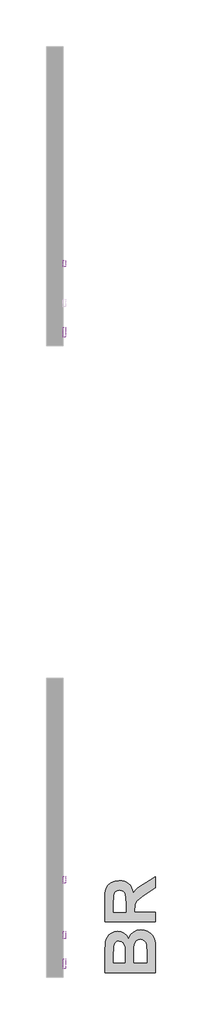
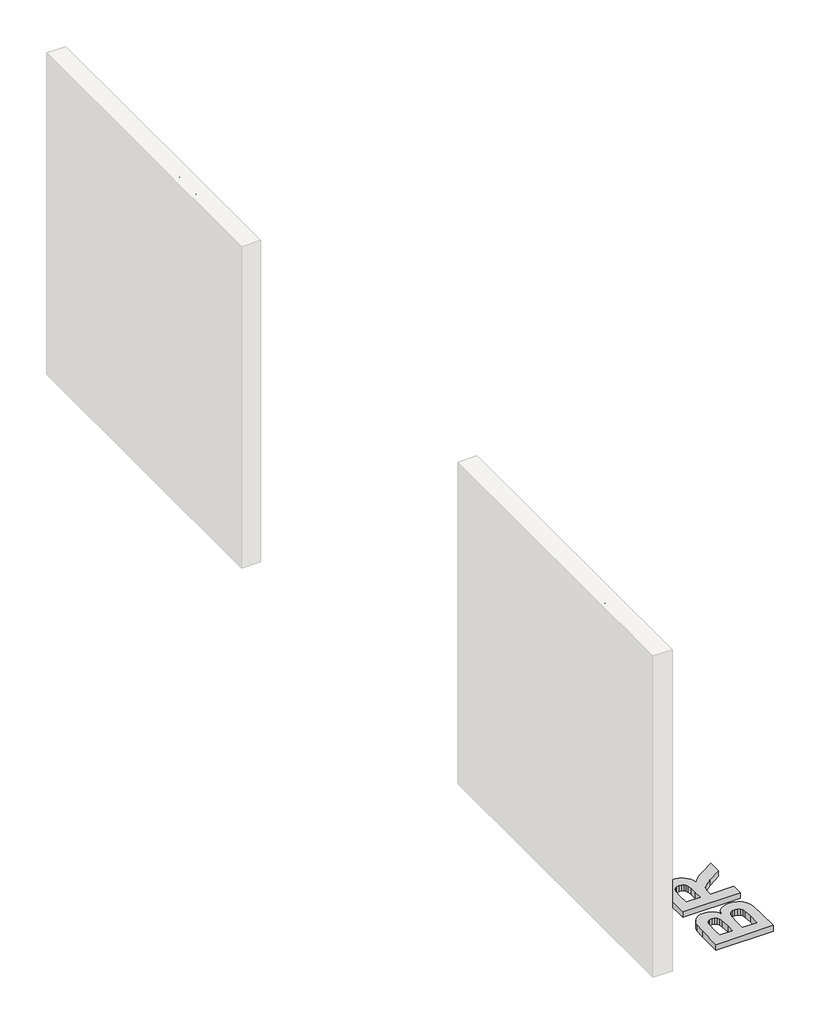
# One storey, part 4 of 21: 6 proxies.
"""IFC4 building model written with IfcOpenShell, lengths in millimetres."""

from ifc_helpers import new_model, si_unit, frame, origin, origin_with_axes, place, context, project, spatial, polyline, outline, extrude, element, save

model = new_model("IFC4")

# Units and contexts
model_context = context("Model", 3, world=origin())
ifc_project = project(units=[si_unit("LENGTHUNIT", "METRE", prefix="MILLI")], contexts=[model_context])

# Site, building, storey
site = spatial("IfcSite", under=ifc_project)
building = spatial("IfcBuilding", under=site)
storey = spatial("IfcBuildingStorey", under=building, Name="PORTOBELLO - SHOWROOM", Elevation=0.0)

# Proxies
placement = place(None, origin())
element("IfcBuildingElementProxy", 1, Name="10mm Arial", ObjectType="10mm Arial", at=placement, inside=storey, context=model_context, shape_type="SweptSolid", body=[
    extrude(outline(polyline([(-7646.6519205, 2518.4745677), (-7606.552783, 2618.9308778), (-7595.8596797, 2618.9308778), (-7555.7850677, 2518.4745677), (-7569.0533449, 2518.4745677), (-7580.5312632, 2549.8671646), (-7621.9302504, 2549.8671646), (-7633.4081686, 2518.4745677), (-7646.6519205, 2518.4745677)]), holes=[polyline([(-7617.3194627, 2562.4242034), (-7585.1175254, 2562.4242034), (-7594.191948, 2587.121348), (-7601.2307568, 2606.373839), (-7607.4847507, 2589.279589), (-7617.3194627, 2562.4242034)])]), frame((25885.0186832, 0.0, 0.0), z_axis=(1.0, 0.0, 0.0), x_axis=(0.0, 1.0, 0.0)), (0.0, 0.0, 1.0), 20.0),
    extrude(outline(polyline([(-7543.9392674, 2518.4745677), (-7543.9392674, 2592.2471704), (-7532.9518585, 2592.2471704), (-7532.9518585, 2581.3333379), (-7525.1527602, 2591.3887791), (-7517.304611, 2593.8168003), (-7504.6985213, 2589.9417766), (-7508.892376, 2578.6845875), (-7517.7215439, 2581.2597615), (-7524.8216664, 2578.7826894), (-7529.3466149, 2571.9155588), (-7531.3822286, 2557.24933), (-7531.3822286, 2518.4745677), (-7543.9392674, 2518.4745677)])), frame((25885.0186832, 0.0, 0.0), z_axis=(1.0, 0.0, 0.0), x_axis=(0.0, 1.0, 0.0)), (0.0, 0.0, 1.0), 20.0),
    extrude(outline(polyline([(25905.0186832, -7484.2933333), (25905.0186832, -7496.850372), (25885.0186832, -7496.850372), (25885.0186832, -7484.2933333), (25905.0186832, -7484.2933333)])), frame((0.0, 0.0, 2518.4745677), z_axis=(0.0, 0.0, 1.0), x_axis=(1.0, 0.0, 0.0)), (0.0, 0.0, 1.0), 100.4563101),
    extrude(outline(polyline([(-7413.807143, 2540.4493855), (-7401.4953589, 2538.8797557), (-7405.9314026, 2529.602998), (-7413.0100653, 2522.6684224), (-7422.5719315, 2518.345809), (-7434.4575856, 2516.9049378), (-7449.1912596, 2519.391207), (-7460.5281564, 2526.8500144), (-7467.7570376, 2538.7969822), (-7470.1666646, 2554.7477324), (-7467.7325121, 2571.2349771), (-7460.4300545, 2583.5651553), (-7449.2464419, 2591.253889), (-7435.1688242, 2593.8168003), (-7421.5295992, 2591.2600204), (-7410.6310951, 2583.5896808), (-7403.4849873, 2571.2840281), (-7401.1029514, 2554.8213088), (-7401.1765278, 2551.4367944), (-7457.6096259, 2551.4367944), (-7455.4360564, 2542.0374095), (-7450.386876, 2535.1273593), (-7443.0997468, 2530.8783223), (-7434.212331, 2529.4619766), (-7421.9005469, 2532.0862015), (-7413.807143, 2540.4493855)]), holes=[polyline([(-7457.6096259, 2563.9938332), (-7413.6599902, 2563.9938332), (-7418.6877108, 2575.3736496), (-7426.0085625, 2579.7882335), (-7435.2178751, 2581.2597615), (-7450.6811816, 2576.5631347), (-7455.546421, 2571.0724959), (-7457.6096259, 2563.9938332)])]), frame((25885.0186832, 0.0, 0.0), z_axis=(1.0, 0.0, 0.0), x_axis=(0.0, 1.0, 0.0)), (0.0, 0.0, 1.0), 20.0),
    extrude(outline(polyline([(-7393.2548022, 2540.4493855), (-7380.6977634, 2542.0190154), (-7374.8852279, 2532.6993381), (-7361.5678997, 2529.4619766), (-7348.7656062, 2532.429558), (-7344.596277, 2539.3947905), (-7348.7901317, 2545.0356477), (-7361.7150525, 2548.6163658), (-7380.624187, 2554.7599951), (-7388.8770064, 2561.933694), (-7391.6851723, 2572.0627116), (-7389.4288294, 2581.419177), (-7383.2729374, 2588.5683505), (-7375.2898981, 2592.2839586), (-7364.4864302, 2593.8168003), (-7349.2070646, 2591.3519909), (-7339.49498, 2584.6810641), (-7335.1784979, 2573.4116123), (-7347.7355366, 2571.8419824), (-7352.4566889, 2578.7704267), (-7363.5054115, 2581.2597615), (-7375.52289, 2578.8807913), (-7379.1281336, 2573.3380359), (-7377.6320801, 2569.6837414), (-7372.9477161, 2566.9123637), (-7362.1319854, 2564.2390879), (-7343.7010974, 2558.3284505), (-7335.1417097, 2551.6329982), (-7332.0392382, 2540.7191656), (-7335.6812699, 2528.7016871), (-7346.1904323, 2519.9828838), (-7361.7395779, 2516.9049378), (-7374.4008499, 2518.3887285), (-7383.6408194, 2522.8401007), (-7389.8089742, 2530.2100033), (-7393.2548022, 2540.4493855)])), frame((25885.0186832, 0.0, 0.0), z_axis=(1.0, 0.0, 0.0), x_axis=(0.0, 1.0, 0.0)), (0.0, 0.0, 1.0), 20.0),
    extrude(outline(polyline([(-7277.1021936, 2518.4745677), (-7277.1021936, 2618.9308778), (-7238.7688897, 2618.9308778), (-7219.9946452, 2615.9755591), (-7208.9091344, 2606.8888738), (-7204.8992207, 2594.0375295), (-7208.2714723, 2582.3020938), (-7218.4618035, 2573.4116123), (-7206.0887058, 2564.0428841), (-7201.759961, 2548.4201621), (-7204.7152797, 2534.9188928), (-7212.0361314, 2525.30491), (-7222.9622266, 2520.203613), (-7239.0631953, 2518.4745677), (-7277.1021936, 2518.4745677)]), holes=[polyline([(-7264.5451548, 2578.1205018), (-7241.6138438, 2578.1205018), (-7228.2229391, 2579.1996223), (-7220.1663235, 2583.8471982), (-7217.4562594, 2592.0264412), (-7219.9823825, 2600.217947), (-7227.217395, 2605.0617266), (-7243.3551519, 2606.373839), (-7264.5451548, 2606.373839), (-7264.5451548, 2578.1205018)]), polyline([(-7264.5451548, 2531.0316064), (-7238.7934151, 2531.0316064), (-7229.4737379, 2531.5221158), (-7221.5888005, 2534.2567053), (-7216.3648762, 2539.8362488), (-7214.3169997, 2548.2975347), (-7216.7204954, 2558.0586703), (-7224.507331, 2563.8834686), (-7240.0196885, 2565.563463), (-7264.5451548, 2565.563463), (-7264.5451548, 2531.0316064)])]), frame((25885.0186832, 0.0, 0.0), z_axis=(1.0, 0.0, 0.0), x_axis=(0.0, 1.0, 0.0)), (0.0, 0.0, 1.0), 20.0),
    extrude(outline(polyline([(-7134.4130304, 2540.4493855), (-7122.1012463, 2538.8797557), (-7126.53729, 2529.602998), (-7133.6159527, 2522.6684224), (-7143.1778189, 2518.345809), (-7155.063473, 2516.9049378), (-7169.7971469, 2519.391207), (-7181.1340438, 2526.8500144), (-7188.362925, 2538.7969822), (-7190.772552, 2554.7477324), (-7188.3383995, 2571.2349771), (-7181.0359419, 2583.5651553), (-7169.8523292, 2591.253889), (-7155.7747116, 2593.8168003), (-7142.1354866, 2591.2600204), (-7131.2369825, 2583.5896808), (-7124.0908747, 2571.2840281), (-7121.7088388, 2554.8213088), (-7121.7824152, 2551.4367944), (-7178.2155133, 2551.4367944), (-7176.0419438, 2542.0374095), (-7170.9927634, 2535.1273593), (-7163.7056342, 2530.8783223), (-7154.8182184, 2529.4619766), (-7142.5064343, 2532.0862015), (-7134.4130304, 2540.4493855)]), holes=[polyline([(-7178.2155133, 2563.9938332), (-7134.2658776, 2563.9938332), (-7139.2935982, 2575.3736496), (-7146.6144499, 2579.7882335), (-7155.8237625, 2581.2597615), (-7171.287069, 2576.5631347), (-7176.1523084, 2571.0724959), (-7178.2155133, 2563.9938332)])]), frame((25885.0186832, 0.0, 0.0), z_axis=(1.0, 0.0, 0.0), x_axis=(0.0, 1.0, 0.0)), (0.0, 0.0, 1.0), 20.0),
    extrude(outline(polyline([(25905.0186832, -7096.5947613), (25905.0186832, -7109.1518), (25885.0186832, -7109.1518), (25885.0186832, -7096.5947613), (25905.0186832, -7096.5947613)])), frame((0.0, 0.0, 2606.373839), z_axis=(0.0, 0.0, 1.0), x_axis=(1.0, 0.0, 0.0)), (0.0, 0.0, 1.0), 12.5570388),
    extrude(outline(polyline([(25905.0186832, -7096.5947613), (25905.0186832, -7109.1518), (25885.0186832, -7109.1518), (25885.0186832, -7096.5947613), (25905.0186832, -7096.5947613)])), frame((0.0, 0.0, 2518.4745677), z_axis=(0.0, 0.0, 1.0), x_axis=(1.0, 0.0, 0.0)), (0.0, 0.0, 1.0), 73.7726028),
    extrude(outline(polyline([(-7080.8984628, 2512.1960483), (-7068.341424, 2510.6264184), (-7064.2701966, 2504.0045425), (-7052.0810399, 2501.2086394), (-7039.2296955, 2504.3724245), (-7033.0983289, 2513.2506433), (-7032.2399376, 2527.8923467), (-7041.0813682, 2520.8290124), (-7051.8603107, 2518.4745677), (-7064.8066912, 2521.2152885), (-7074.4605279, 2529.4374511), (-7080.4662015, 2541.4917178), (-7082.4680927, 2555.728751), (-7078.8751118, 2575.1897086), (-7068.4763141, 2588.9607579), (-7052.4734473, 2593.8168003), (-7041.2714406, 2591.069948), (-7032.2399376, 2582.8293914), (-7032.2399376, 2592.2471704), (-7019.6828988, 2592.2471704), (-7019.6828988, 2528.5545343), (-7023.1164641, 2504.1639581), (-7033.9935084, 2492.8209299), (-7052.3262945, 2488.6516006), (-7064.0096136, 2490.1200629), (-7073.2097291, 2494.5254498), (-7079.1111695, 2501.880024), (-7080.8984628, 2512.1960483)]), holes=[polyline([(-7069.9110539, 2556.5871424), (-7068.5713503, 2545.0693702), (-7064.5522395, 2537.1507103), (-7058.5097777, 2532.5613824), (-7051.1000212, 2531.0316064), (-7043.745447, 2532.5521853), (-7037.6723284, 2537.1139221), (-7033.5980353, 2544.9314145), (-7032.2399376, 2556.2192604), (-7033.6378892, 2567.1055017), (-7037.8317439, 2574.9444539), (-7043.9937673, 2579.6809346), (-7051.2962249, 2581.2597615), (-7058.4668582, 2579.7054601), (-7064.4786631, 2575.0425558), (-7068.5529562, 2567.3200996), (-7069.9110539, 2556.5871424)])]), frame((25885.0186832, 0.0, 0.0), z_axis=(1.0, 0.0, 0.0), x_axis=(0.0, 1.0, 0.0)), (0.0, 0.0, 1.0), 20.0),
    extrude(outline(polyline([(-6949.1967085, 2540.4493855), (-6936.8849244, 2538.8797557), (-6941.3209682, 2529.602998), (-6948.3996309, 2522.6684224), (-6957.9614971, 2518.345809), (-6969.8471512, 2516.9049378), (-6984.5808251, 2519.391207), (-6995.9177219, 2526.8500144), (-7003.1466031, 2538.7969822), (-7005.5562302, 2554.7477324), (-7003.1220777, 2571.2349771), (-6995.8196201, 2583.5651553), (-6984.6360074, 2591.253889), (-6970.5583897, 2593.8168003), (-6956.9191648, 2591.2600204), (-6946.0206606, 2583.5896808), (-6938.8745529, 2571.2840281), (-6936.492517, 2554.8213088), (-6936.5660934, 2551.4367944), (-6992.9991914, 2551.4367944), (-6990.825622, 2542.0374095), (-6985.7764416, 2535.1273593), (-6978.4893124, 2530.8783223), (-6969.6018965, 2529.4619766), (-6957.2901124, 2532.0862015), (-6949.1967085, 2540.4493855)]), holes=[polyline([(-6992.9991914, 2563.9938332), (-6949.0495557, 2563.9938332), (-6954.0772763, 2575.3736496), (-6961.398128, 2579.7882335), (-6970.6074407, 2581.2597615), (-6986.0707472, 2576.5631347), (-6990.9359866, 2571.0724959), (-6992.9991914, 2563.9938332)])]), frame((25885.0186832, 0.0, 0.0), z_axis=(1.0, 0.0, 0.0), x_axis=(0.0, 1.0, 0.0)), (0.0, 0.0, 1.0), 20.0),
])
element("IfcBuildingElementProxy", 2, Name="10mm Arial", ObjectType="10mm Arial", at=placement, inside=storey, context=model_context, shape_type="SweptSolid", body=[
    extrude(outline(polyline([(-7592.5977926, 2383.4745677), (-7605.1548314, 2383.4745677), (-7605.1548314, 2461.7598562), (-7617.0496826, 2453.2863076), (-7630.2689089, 2446.9464746), (-7630.2689089, 2458.8168003), (-7611.8625465, 2470.5644987), (-7600.6911965, 2483.9308778), (-7592.5977926, 2483.9308778), (-7592.5977926, 2383.4745677)])), frame((25885.0186832, 0.0, 0.0), z_axis=(1.0, 0.0, 0.0), x_axis=(0.0, 1.0, 0.0)), (0.0, 0.0, 1.0), 20.0),
    extrude(outline(polyline([(-7562.7748256, 2410.158275), (-7550.2177868, 2411.7279049), (-7543.8902165, 2398.7907214), (-7530.769092, 2394.4619766), (-7521.7682458, 2395.9672271), (-7515.0237426, 2400.4829786), (-7510.8114937, 2407.4880649), (-7509.4074108, 2416.4613199), (-7514.6681233, 2431.3728034), (-7521.2746708, 2435.4746877), (-7530.5728883, 2436.8419824), (-7541.5970854, 2434.6592159), (-7548.6481569, 2428.9938332), (-7561.2051957, 2430.563463), (-7550.2177868, 2482.361248), (-7501.5592616, 2482.361248), (-7501.5592616, 2469.8042092), (-7540.0642437, 2469.8042092), (-7545.4598463, 2442.1394832), (-7536.489657, 2447.5841367), (-7527.090272, 2449.3990212), (-7515.3548364, 2447.1488097), (-7505.6059635, 2440.3981751), (-7499.0392699, 2430.1097419), (-7496.850372, 2417.2461348), (-7498.8185407, 2404.6890961), (-7504.7230467, 2393.9469418), (-7516.0292867, 2384.9154388), (-7530.8181429, 2381.9049378), (-7543.1513868, 2383.839384), (-7552.9769018, 2389.6427224), (-7559.712208, 2398.6405029), (-7562.7748256, 2410.158275)])), frame((25885.0186832, 0.0, 0.0), z_axis=(1.0, 0.0, 0.0), x_axis=(0.0, 1.0, 0.0)), (0.0, 0.0, 1.0), 20.0),
    extrude(outline(polyline([(-7479.5844437, 2383.4745677), (-7479.5844437, 2396.0316064), (-7467.027405, 2396.0316064), (-7467.027405, 2383.4745677), (-7469.2837479, 2370.635486), (-7476.445184, 2363.0693797), (-7479.5844437, 2367.7782692), (-7474.973656, 2373.1983973), (-7473.3304498, 2383.4745677), (-7479.5844437, 2383.4745677)])), frame((25885.0186832, 0.0, 0.0), z_axis=(1.0, 0.0, 0.0), x_axis=(0.0, 1.0, 0.0)), (0.0, 0.0, 1.0), 20.0),
    extrude(outline(polyline([(-7446.622217, 2410.158275), (-7434.0651782, 2411.7279049), (-7427.7376079, 2398.7907214), (-7414.6164834, 2394.4619766), (-7405.6156372, 2395.9672271), (-7398.871134, 2400.4829786), (-7394.6588851, 2407.4880649), (-7393.2548022, 2416.4613199), (-7398.5155147, 2431.3728034), (-7405.1220622, 2435.4746877), (-7414.4202796, 2436.8419824), (-7425.4444768, 2434.6592159), (-7432.4955483, 2428.9938332), (-7445.0525871, 2430.563463), (-7434.0651782, 2482.361248), (-7385.406653, 2482.361248), (-7385.406653, 2469.8042092), (-7423.9116351, 2469.8042092), (-7429.3072377, 2442.1394832), (-7420.3370484, 2447.5841367), (-7410.9376634, 2449.3990212), (-7399.2022278, 2447.1488097), (-7389.4533549, 2440.3981751), (-7382.8866613, 2430.1097419), (-7380.6977634, 2417.2461348), (-7382.6659321, 2404.6890961), (-7388.5704381, 2393.9469418), (-7399.8766781, 2384.9154388), (-7414.6655343, 2381.9049378), (-7426.9987782, 2383.839384), (-7436.8242931, 2389.6427224), (-7443.5595993, 2398.6405029), (-7446.622217, 2410.158275)])), frame((25885.0186832, 0.0, 0.0), z_axis=(1.0, 0.0, 0.0), x_axis=(0.0, 1.0, 0.0)), (0.0, 0.0, 1.0), 20.0),
    extrude(outline(polyline([(-7374.419244, 2383.4745677), (-7347.5883839, 2420.5815982), (-7372.8496142, 2457.2471704), (-7357.7909779, 2457.2471704), (-7345.6018211, 2439.5643092), (-7339.8873874, 2431.2501761), (-7334.9332432, 2438.0682557), (-7321.0518293, 2457.2471704), (-7305.944142, 2457.2471704), (-7332.4806966, 2420.5570728), (-7306.9251607, 2383.4745677), (-7322.0083225, 2383.4745677), (-7337.4103153, 2405.792742), (-7340.2062185, 2409.8884949), (-7359.3115568, 2383.4745677), (-7374.419244, 2383.4745677)])), frame((25885.0186832, 0.0, 0.0), z_axis=(1.0, 0.0, 0.0), x_axis=(0.0, 1.0, 0.0)), (0.0, 0.0, 1.0), 20.0),
    extrude(outline(polyline([(-7251.988116, 2383.4745677), (-7264.5451548, 2383.4745677), (-7264.5451548, 2461.7598562), (-7276.440006, 2453.2863076), (-7289.6592323, 2446.9464746), (-7289.6592323, 2458.8168003), (-7271.2528699, 2470.5644987), (-7260.0815199, 2483.9308778), (-7251.988116, 2483.9308778), (-7251.988116, 2383.4745677)])), frame((25885.0186832, 0.0, 0.0), z_axis=(1.0, 0.0, 0.0), x_axis=(0.0, 1.0, 0.0)), (0.0, 0.0, 1.0), 20.0),
    extrude(outline(polyline([(-7222.165149, 2410.158275), (-7209.6081102, 2411.7279049), (-7203.2805399, 2398.7907214), (-7190.1594154, 2394.4619766), (-7181.1585692, 2395.9672271), (-7174.414066, 2400.4829786), (-7170.2018171, 2407.4880649), (-7168.7977342, 2416.4613199), (-7174.0584467, 2431.3728034), (-7180.6649942, 2435.4746877), (-7189.9632117, 2436.8419824), (-7200.9874088, 2434.6592159), (-7208.0384803, 2428.9938332), (-7220.5955191, 2430.563463), (-7209.6081102, 2482.361248), (-7160.949585, 2482.361248), (-7160.949585, 2469.8042092), (-7199.4545671, 2469.8042092), (-7204.8501697, 2442.1394832), (-7195.8799804, 2447.5841367), (-7186.4805954, 2449.3990212), (-7174.7451598, 2447.1488097), (-7164.9962869, 2440.3981751), (-7158.4295933, 2430.1097419), (-7156.2406954, 2417.2461348), (-7158.2088641, 2404.6890961), (-7164.1133701, 2393.9469418), (-7175.4196101, 2384.9154388), (-7190.2084663, 2381.9049378), (-7202.5417102, 2383.839384), (-7212.3672252, 2389.6427224), (-7219.1025314, 2398.6405029), (-7222.165149, 2410.158275)])), frame((25885.0186832, 0.0, 0.0), z_axis=(1.0, 0.0, 0.0), x_axis=(0.0, 1.0, 0.0)), (0.0, 0.0, 1.0), 20.0),
    extrude(outline(polyline([(-7138.9747671, 2383.4745677), (-7138.9747671, 2396.0316064), (-7126.4177284, 2396.0316064), (-7126.4177284, 2383.4745677), (-7128.6740713, 2370.635486), (-7135.8355074, 2363.0693797), (-7138.9747671, 2367.7782692), (-7134.3639794, 2373.1983973), (-7132.7207732, 2383.4745677), (-7138.9747671, 2383.4745677)])), frame((25885.0186832, 0.0, 0.0), z_axis=(1.0, 0.0, 0.0), x_axis=(0.0, 1.0, 0.0)), (0.0, 0.0, 1.0), 20.0),
    extrude(outline(polyline([(-7106.0125404, 2410.158275), (-7093.4555016, 2411.7279049), (-7087.1279313, 2398.7907214), (-7074.0068068, 2394.4619766), (-7065.0059606, 2395.9672271), (-7058.2614574, 2400.4829786), (-7054.0492085, 2407.4880649), (-7052.6451256, 2416.4613199), (-7057.9058381, 2431.3728034), (-7064.5123856, 2435.4746877), (-7073.810603, 2436.8419824), (-7084.8348002, 2434.6592159), (-7091.8858717, 2428.9938332), (-7104.4429105, 2430.563463), (-7093.4555016, 2482.361248), (-7044.7969764, 2482.361248), (-7044.7969764, 2469.8042092), (-7083.3019585, 2469.8042092), (-7088.6975611, 2442.1394832), (-7079.7273718, 2447.5841367), (-7070.3279868, 2449.3990212), (-7058.5925512, 2447.1488097), (-7048.8436783, 2440.3981751), (-7042.2769847, 2430.1097419), (-7040.0880868, 2417.2461348), (-7042.0562555, 2404.6890961), (-7047.9607615, 2393.9469418), (-7059.2670015, 2384.9154388), (-7074.0558577, 2381.9049378), (-7086.3891016, 2383.839384), (-7096.2146165, 2389.6427224), (-7102.9499227, 2398.6405029), (-7106.0125404, 2410.158275)])), frame((25885.0186832, 0.0, 0.0), z_axis=(1.0, 0.0, 0.0), x_axis=(0.0, 1.0, 0.0)), (0.0, 0.0, 1.0), 20.0),
])
element("IfcBuildingElementProxy", 3, Name="10mm Arial", ObjectType="10mm Arial", at=placement, inside=storey, context=model_context, shape_type="SweptSolid", body=[
    extrude(outline(polyline([(-1946.6519205, 2518.4745677), (-1906.552783, 2618.9308778), (-1895.8596797, 2618.9308778), (-1855.7850677, 2518.4745677), (-1869.0533449, 2518.4745677), (-1880.5312632, 2549.8671646), (-1921.9302504, 2549.8671646), (-1933.4081686, 2518.4745677), (-1946.6519205, 2518.4745677)]), holes=[polyline([(-1917.3194627, 2562.4242034), (-1885.1175254, 2562.4242034), (-1894.191948, 2587.121348), (-1901.2307568, 2606.373839), (-1907.4847507, 2589.279589), (-1917.3194627, 2562.4242034)])]), frame((25885.0186832, 0.0, 0.0), z_axis=(1.0, 0.0, 0.0), x_axis=(0.0, 1.0, 0.0)), (0.0, 0.0, 1.0), 20.0),
    extrude(outline(polyline([(-1843.9392674, 2518.4745677), (-1843.9392674, 2592.2471704), (-1832.9518585, 2592.2471704), (-1832.9518585, 2581.3333379), (-1825.1527602, 2591.3887791), (-1817.304611, 2593.8168003), (-1804.6985213, 2589.9417766), (-1808.892376, 2578.6845875), (-1817.7215439, 2581.2597615), (-1824.8216664, 2578.7826894), (-1829.3466149, 2571.9155588), (-1831.3822286, 2557.24933), (-1831.3822286, 2518.4745677), (-1843.9392674, 2518.4745677)])), frame((25885.0186832, 0.0, 0.0), z_axis=(1.0, 0.0, 0.0), x_axis=(0.0, 1.0, 0.0)), (0.0, 0.0, 1.0), 20.0),
    extrude(outline(polyline([(25905.0186832, -1784.2933333), (25905.0186832, -1796.850372), (25885.0186832, -1796.850372), (25885.0186832, -1784.2933333), (25905.0186832, -1784.2933333)])), frame((0.0, 0.0, 2518.4745677), z_axis=(0.0, 0.0, 1.0), x_axis=(1.0, 0.0, 0.0)), (0.0, 0.0, 1.0), 100.4563101),
    extrude(outline(polyline([(-1713.807143, 2540.4493855), (-1701.4953589, 2538.8797557), (-1705.9314026, 2529.602998), (-1713.0100653, 2522.6684224), (-1722.5719315, 2518.345809), (-1734.4575856, 2516.9049378), (-1749.1912596, 2519.391207), (-1760.5281564, 2526.8500144), (-1767.7570376, 2538.7969822), (-1770.1666646, 2554.7477324), (-1767.7325121, 2571.2349771), (-1760.4300545, 2583.5651553), (-1749.2464419, 2591.253889), (-1735.1688242, 2593.8168003), (-1721.5295992, 2591.2600204), (-1710.6310951, 2583.5896808), (-1703.4849873, 2571.2840281), (-1701.1029514, 2554.8213088), (-1701.1765278, 2551.4367944), (-1757.6096259, 2551.4367944), (-1755.4360564, 2542.0374095), (-1750.386876, 2535.1273593), (-1743.0997468, 2530.8783223), (-1734.212331, 2529.4619766), (-1721.9005469, 2532.0862015), (-1713.807143, 2540.4493855)]), holes=[polyline([(-1757.6096259, 2563.9938332), (-1713.6599902, 2563.9938332), (-1718.6877108, 2575.3736496), (-1726.0085625, 2579.7882335), (-1735.2178751, 2581.2597615), (-1750.6811816, 2576.5631347), (-1755.546421, 2571.0724959), (-1757.6096259, 2563.9938332)])]), frame((25885.0186832, 0.0, 0.0), z_axis=(1.0, 0.0, 0.0), x_axis=(0.0, 1.0, 0.0)), (0.0, 0.0, 1.0), 20.0),
    extrude(outline(polyline([(-1647.7355366, 2518.4745677), (-1647.7355366, 2618.9308778), (-1609.4022328, 2618.9308778), (-1590.6279883, 2615.9755591), (-1579.5424775, 2606.8888738), (-1575.5325637, 2594.0375295), (-1578.9048154, 2582.3020938), (-1589.0951466, 2573.4116123), (-1576.7220488, 2564.0428841), (-1572.393304, 2548.4201621), (-1575.3486227, 2534.9188928), (-1582.6694744, 2525.30491), (-1593.5955697, 2520.203613), (-1609.6965383, 2518.4745677), (-1647.7355366, 2518.4745677)]), holes=[polyline([(-1635.1784979, 2531.0316064), (-1609.4267582, 2531.0316064), (-1600.107081, 2531.5221158), (-1592.2221436, 2534.2567053), (-1586.9982192, 2539.8362488), (-1584.9503428, 2548.2975347), (-1587.3538385, 2558.0586703), (-1595.1406741, 2563.8834686), (-1610.6530315, 2565.563463), (-1635.1784979, 2565.563463), (-1635.1784979, 2531.0316064)]), polyline([(-1635.1784979, 2578.1205018), (-1612.2471868, 2578.1205018), (-1598.8562822, 2579.1996223), (-1590.7996665, 2583.8471982), (-1588.0896025, 2592.0264412), (-1590.6157255, 2600.217947), (-1597.8507381, 2605.0617266), (-1613.988495, 2606.373839), (-1635.1784979, 2606.373839), (-1635.1784979, 2578.1205018)])]), frame((25885.0186832, 0.0, 0.0), z_axis=(1.0, 0.0, 0.0), x_axis=(0.0, 1.0, 0.0)), (0.0, 0.0, 1.0), 20.0),
    extrude(outline(polyline([(-1556.6970056, 2518.4745677), (-1556.6970056, 2592.2471704), (-1545.7095967, 2592.2471704), (-1545.7095967, 2581.3333379), (-1537.9104984, 2591.3887791), (-1530.0623491, 2593.8168003), (-1517.4562594, 2589.9417766), (-1521.6501142, 2578.6845875), (-1530.4792821, 2581.2597615), (-1537.5794046, 2578.7826894), (-1542.1043531, 2571.9155588), (-1544.1399668, 2557.24933), (-1544.1399668, 2518.4745677), (-1556.6970056, 2518.4745677)])), frame((25885.0186832, 0.0, 0.0), z_axis=(1.0, 0.0, 0.0), x_axis=(0.0, 1.0, 0.0)), (0.0, 0.0, 1.0), 20.0),
    extrude(outline(polyline([(-1462.5192148, 2518.4745677), (-1462.5192148, 2531.1542338), (-1472.3539268, 2520.4672618), (-1485.1807457, 2516.9049378), (-1496.9897578, 2519.4065354), (-1505.1322126, 2525.6850548), (-1508.8723462, 2534.9311556), (-1509.6081102, 2546.6052776), (-1509.6081102, 2592.2471704), (-1497.0510714, 2592.2471704), (-1497.0510714, 2552.515915), (-1496.290782, 2539.7136215), (-1491.324375, 2532.1965661), (-1481.9679096, 2529.4619766), (-1471.4832728, 2532.2578797), (-1464.5548285, 2539.873037), (-1462.5192148, 2553.8648156), (-1462.5192148, 2592.2471704), (-1449.962176, 2592.2471704), (-1449.962176, 2518.4745677), (-1462.5192148, 2518.4745677)])), frame((25885.0186832, 0.0, 0.0), z_axis=(1.0, 0.0, 0.0), x_axis=(0.0, 1.0, 0.0)), (0.0, 0.0, 1.0), 20.0),
    extrude(outline(polyline([(-1432.6962477, 2518.4745677), (-1432.6962477, 2592.2471704), (-1420.139209, 2592.2471704), (-1420.139209, 2581.9464746), (-1410.5374889, 2590.8492188), (-1397.4286271, 2593.8168003), (-1385.5705642, 2591.4255673), (-1377.4771603, 2585.1470479), (-1373.7125012, 2575.9132098), (-1373.0503136, 2563.773104), (-1373.0503136, 2518.4745677), (-1385.6073524, 2518.4745677), (-1385.6073524, 2562.0808468), (-1387.0543549, 2573.1908831), (-1392.1679146, 2579.0647323), (-1400.788616, 2581.2597615), (-1414.4125126, 2576.3301428), (-1418.7075349, 2569.1871007), (-1420.139209, 2557.6172119), (-1420.139209, 2518.4745677), (-1432.6962477, 2518.4745677)])), frame((25885.0186832, 0.0, 0.0), z_axis=(1.0, 0.0, 0.0), x_axis=(0.0, 1.0, 0.0)), (0.0, 0.0, 1.0), 20.0),
])
element("IfcBuildingElementProxy", 4, Name="10mm Arial Narrow", ObjectType="10mm Arial Narrow", at=placement, inside=storey, context=model_context, shape_type="SweptSolid", body=[
    extrude(outline(polyline([(-6873.0722036, 2518.4745677), (-6873.0722036, 2615.7916181), (-6842.8323036, 2615.7916181), (-6827.0869542, 2613.9767336), (-6816.0014434, 2604.8164719), (-6811.8566396, 2588.3721467), (-6813.5826193, 2576.7041561), (-6818.7605584, 2567.402873), (-6828.1752718, 2561.314426), (-6842.6115744, 2559.2849437), (-6863.6544246, 2559.2849437), (-6863.6544246, 2518.4745677), (-6873.0722036, 2518.4745677)]), holes=[polyline([(-6863.6544246, 2570.2723526), (-6841.4588775, 2570.2723526), (-6826.130461, 2574.6501483), (-6821.2744187, 2587.857112), (-6823.6656517, 2597.6795612), (-6829.441399, 2603.2836303), (-6841.6796067, 2604.8042092), (-6863.6544246, 2604.8042092), (-6863.6544246, 2570.2723526)])]), frame((25885.0186832, 0.0, 0.0), z_axis=(1.0, 0.0, 0.0), x_axis=(0.0, 1.0, 0.0)), (0.0, 0.0, 1.0), 20.0),
    extrude(outline(polyline([(-6804.0084904, 2553.7912392), (-6802.1200295, 2569.8216971), (-6796.4546468, 2581.3701261), (-6787.895259, 2588.350687), (-6777.324783, 2590.6775406), (-6766.8769344, 2588.350687), (-6758.2930211, 2581.3701261), (-6752.554062, 2570.0056381), (-6750.6410756, 2554.5270032), (-6752.5203395, 2537.9447223), (-6758.1581311, 2526.2123523), (-6766.7083218, 2519.2317914), (-6777.324783, 2516.9049378), (-6787.8186169, 2519.2379228), (-6796.3933331, 2526.2368778), (-6802.1047011, 2537.7914381), (-6804.0084904, 2553.7912392)]), holes=[polyline([(-6794.5907113, 2553.8157647), (-6793.3307155, 2541.6879216), (-6789.550728, 2533.1162711), (-6783.906805, 2528.0211054), (-6777.0550029, 2526.3227169), (-6770.5618857, 2528.0364339), (-6765.0620498, 2533.1775847), (-6761.3096535, 2541.7645636), (-6760.0588547, 2553.8157647), (-6761.3188505, 2565.9068196), (-6765.098838, 2574.4662073), (-6770.742761, 2579.561373), (-6777.5945631, 2581.2597615), (-6784.1336656, 2579.5521759), (-6789.6243044, 2574.4294191), (-6793.3491096, 2565.8608343), (-6794.5907113, 2553.8157647)])]), frame((25885.0186832, 0.0, 0.0), z_axis=(1.0, 0.0, 0.0), x_axis=(0.0, 1.0, 0.0)), (0.0, 0.0, 1.0), 20.0),
    extrude(outline(polyline([(-6681.5773624, 2526.3227169), (-6680.0077326, 2516.9049378), (-6687.1201178, 2516.9049378), (-6695.1154198, 2518.9528143), (-6699.2847491, 2524.5568833), (-6700.4129206, 2538.7080774), (-6700.4129206, 2579.6901317), (-6708.2610698, 2579.6901317), (-6708.2610698, 2582.8293914), (-6709.8306996, 2578.1205018), (-6717.1392886, 2579.6901317), (-6723.0131378, 2577.4460515), (-6726.7532714, 2571.1797948), (-6728.6662578, 2556.2928368), (-6728.6662578, 2518.4745677), (-6738.0840369, 2518.4745677), (-6738.0840369, 2589.1079107), (-6728.6662578, 2589.1079107), (-6728.6662578, 2579.7391826), (-6722.6329931, 2588.5192995), (-6716.4525756, 2590.6775406), (-6708.2610698, 2589.1079107), (-6700.4129206, 2589.1079107), (-6700.4129206, 2604.8042092), (-6690.9951415, 2612.6523584), (-6690.9951415, 2589.1079107), (-6681.5773624, 2589.1079107), (-6681.5773624, 2579.6901317), (-6690.9951415, 2579.6901317), (-6690.9951415, 2536.5498364), (-6690.1612756, 2528.8243145), (-6685.6976408, 2526.3227169), (-6681.5773624, 2526.3227169)])), frame((25885.0186832, 0.0, 0.0), z_axis=(1.0, 0.0, 0.0), x_axis=(0.0, 1.0, 0.0)), (0.0, 0.0, 1.0), 20.0),
    extrude(outline(polyline([(-6675.298843, 2553.7912392), (-6673.4103821, 2569.8216971), (-6667.7449994, 2581.3701261), (-6659.1856116, 2588.350687), (-6648.6151356, 2590.6775406), (-6638.167287, 2588.350687), (-6629.5833738, 2581.3701261), (-6623.8444146, 2570.0056381), (-6621.9314283, 2554.5270032), (-6623.8106921, 2537.9447223), (-6629.4484837, 2526.2123523), (-6637.9986744, 2519.2317914), (-6648.6151356, 2516.9049378), (-6659.1089696, 2519.2379228), (-6667.6836857, 2526.2368778), (-6673.3950537, 2537.7914381), (-6675.298843, 2553.7912392)]), holes=[polyline([(-6665.8810639, 2553.8157647), (-6664.6210681, 2541.6879216), (-6660.8410806, 2533.1162711), (-6655.1971577, 2528.0211054), (-6648.3453555, 2526.3227169), (-6641.8522383, 2528.0364339), (-6636.3524025, 2533.1775847), (-6632.6000061, 2541.7645636), (-6631.3492073, 2553.8157647), (-6632.6092032, 2565.9068196), (-6636.3891907, 2574.4662073), (-6642.0331136, 2579.561373), (-6648.8849158, 2581.2597615), (-6655.4240182, 2579.5521759), (-6660.914657, 2574.4294191), (-6664.6394622, 2565.8608343), (-6665.8810639, 2553.8157647)])]), frame((25885.0186832, 0.0, 0.0), z_axis=(1.0, 0.0, 0.0), x_axis=(0.0, 1.0, 0.0)), (0.0, 0.0, 1.0), 20.0),
    extrude(outline(polyline([(-6599.9566104, 2518.4745677), (-6609.3743895, 2518.4745677), (-6609.3743895, 2615.7916181), (-6599.9566104, 2615.7916181), (-6599.9566104, 2581.5785926), (-6592.807437, 2588.4211977), (-6583.9169554, 2590.6775406), (-6571.4702813, 2586.6185759), (-6562.5062233, 2574.3190545), (-6559.1462344, 2554.3307995), (-6561.0132355, 2538.4321659), (-6566.6142389, 2526.641548), (-6574.7045771, 2519.3390904), (-6584.0395828, 2516.9049378), (-6593.0649544, 2519.4310609), (-6599.9566104, 2526.9358536), (-6599.9566104, 2518.4745677)]), holes=[polyline([(-6599.9566104, 2554.3307995), (-6597.9455222, 2537.6657451), (-6592.255614, 2529.2289847), (-6584.0886337, 2526.3227169), (-6578.3466089, 2528.0517623), (-6573.2851658, 2533.2388984), (-6568.5640135, 2553.938392), (-6573.1134875, 2574.6501483), (-6578.181062, 2579.6073582), (-6584.2848374, 2581.2597615), (-6590.0605847, 2579.5307161), (-6595.1741445, 2574.34358), (-6599.9566104, 2554.3307995)])]), frame((25885.0186832, 0.0, 0.0), z_axis=(1.0, 0.0, 0.0), x_axis=(0.0, 1.0, 0.0)), (0.0, 0.0, 1.0), 20.0),
    extrude(outline(polyline([(-6508.9180793, 2540.4493855), (-6499.5003003, 2538.8797557), (-6508.6973501, 2522.4476932), (-6525.1784635, 2516.9049378), (-6536.3804703, 2519.2379228), (-6545.2157695, 2526.2368778), (-6550.9547287, 2537.6442853), (-6552.867715, 2553.202628), (-6550.9455316, 2569.3066623), (-6545.1789813, 2581.0758205), (-6536.4693751, 2588.2771106), (-6525.7180238, 2590.6775406), (-6515.3958681, 2588.359884), (-6506.9437793, 2581.4069143), (-6501.3059877, 2570.0638861), (-6499.4267239, 2554.5760541), (-6499.5003003, 2551.4367944), (-6543.449936, 2551.4367944), (-6537.6496632, 2532.6502872), (-6531.9199011, 2527.9046095), (-6525.0558362, 2526.3227169), (-6515.2211242, 2529.854384), (-6508.9180793, 2540.4493855)]), holes=[polyline([(-6542.8122738, 2560.8545735), (-6508.9180793, 2560.8545735), (-6513.0383577, 2574.6378856), (-6518.6669522, 2579.6042925), (-6525.6444474, 2581.2597615), (-6537.4411967, 2575.7415316), (-6542.8122738, 2560.8545735)])]), frame((25885.0186832, 0.0, 0.0), z_axis=(1.0, 0.0, 0.0), x_axis=(0.0, 1.0, 0.0)), (0.0, 0.0, 1.0), 20.0),
    extrude(outline(polyline([(25905.0186832, -6477.5254824), (25905.0186832, -6486.9432615), (25885.0186832, -6486.9432615), (25885.0186832, -6477.5254824), (25905.0186832, -6477.5254824)])), frame((0.0, 0.0, 2518.4745677), z_axis=(0.0, 0.0, 1.0), x_axis=(1.0, 0.0, 0.0)), (0.0, 0.0, 1.0), 97.3170505),
    extrude(outline(polyline([(25905.0186832, -6452.4114049), (25905.0186832, -6461.829184), (25885.0186832, -6461.829184), (25885.0186832, -6452.4114049), (25905.0186832, -6452.4114049)])), frame((0.0, 0.0, 2518.4745677), z_axis=(0.0, 0.0, 1.0), x_axis=(1.0, 0.0, 0.0)), (0.0, 0.0, 1.0), 97.3170505),
    extrude(outline(polyline([(-6441.423996, 2553.7912392), (-6439.535535, 2569.8216971), (-6433.8701523, 2581.3701261), (-6425.3107646, 2588.350687), (-6414.7402886, 2590.6775406), (-6404.2924399, 2588.350687), (-6395.7085267, 2581.3701261), (-6389.9695676, 2570.0056381), (-6388.0565812, 2554.5270032), (-6389.935845, 2537.9447223), (-6395.5736366, 2526.2123523), (-6404.1238273, 2519.2317914), (-6414.7402886, 2516.9049378), (-6425.2341225, 2519.2379228), (-6433.8088387, 2526.2368778), (-6439.5202066, 2537.7914381), (-6441.423996, 2553.7912392)]), holes=[polyline([(-6432.0062169, 2553.8157647), (-6430.746221, 2541.6879216), (-6426.9662335, 2533.1162711), (-6421.3223106, 2528.0211054), (-6414.4705084, 2526.3227169), (-6407.9773912, 2528.0364339), (-6402.4775554, 2533.1775847), (-6398.725159, 2541.7645636), (-6397.4743603, 2553.8157647), (-6398.7343561, 2565.9068196), (-6402.5143436, 2574.4662073), (-6408.1582665, 2579.561373), (-6415.0100687, 2581.2597615), (-6421.5491712, 2579.5521759), (-6427.0398099, 2574.4294191), (-6430.7646151, 2565.8608343), (-6432.0062169, 2553.8157647)])]), frame((25885.0186832, 0.0, 0.0), z_axis=(1.0, 0.0, 0.0), x_axis=(0.0, 1.0, 0.0)), (0.0, 0.0, 1.0), 20.0),
])
element("IfcBuildingElementProxy", 5, Name="10mm Arial Narrow", ObjectType="10mm Arial Narrow", at=placement, inside=storey, context=model_context, shape_type="SweptSolid", body=[
    extrude(outline(polyline([(-1313.0722036, 2518.4745677), (-1313.0722036, 2615.7916181), (-1282.8323036, 2615.7916181), (-1267.0869542, 2613.9767336), (-1256.0014434, 2604.8164719), (-1251.8566396, 2588.3721467), (-1253.5826193, 2576.7041561), (-1258.7605584, 2567.402873), (-1268.1752718, 2561.314426), (-1282.6115744, 2559.2849437), (-1303.6544246, 2559.2849437), (-1303.6544246, 2518.4745677), (-1313.0722036, 2518.4745677)]), holes=[polyline([(-1303.6544246, 2570.2723526), (-1281.4588775, 2570.2723526), (-1266.130461, 2574.6501483), (-1261.2744187, 2587.857112), (-1263.6656517, 2597.6795612), (-1269.441399, 2603.2836303), (-1281.6796067, 2604.8042092), (-1303.6544246, 2604.8042092), (-1303.6544246, 2570.2723526)])]), frame((25885.0186832, 0.0, 0.0), z_axis=(1.0, 0.0, 0.0), x_axis=(0.0, 1.0, 0.0)), (0.0, 0.0, 1.0), 20.0),
    extrude(outline(polyline([(-1244.0084904, 2553.7912392), (-1242.1200295, 2569.8216971), (-1236.4546468, 2581.3701261), (-1227.895259, 2588.350687), (-1217.324783, 2590.6775406), (-1206.8769344, 2588.350687), (-1198.2930211, 2581.3701261), (-1192.554062, 2570.0056381), (-1190.6410756, 2554.5270032), (-1192.5203395, 2537.9447223), (-1198.1581311, 2526.2123523), (-1206.7083218, 2519.2317914), (-1217.324783, 2516.9049378), (-1227.8186169, 2519.2379228), (-1236.3933331, 2526.2368778), (-1242.1047011, 2537.7914381), (-1244.0084904, 2553.7912392)]), holes=[polyline([(-1234.5907113, 2553.8157647), (-1233.3307155, 2541.6879216), (-1229.550728, 2533.1162711), (-1223.906805, 2528.0211054), (-1217.0550029, 2526.3227169), (-1210.5618857, 2528.0364339), (-1205.0620498, 2533.1775847), (-1201.3096535, 2541.7645636), (-1200.0588547, 2553.8157647), (-1201.3188505, 2565.9068196), (-1205.098838, 2574.4662073), (-1210.742761, 2579.561373), (-1217.5945631, 2581.2597615), (-1224.1336656, 2579.5521759), (-1229.6243044, 2574.4294191), (-1233.3491096, 2565.8608343), (-1234.5907113, 2553.8157647)])]), frame((25885.0186832, 0.0, 0.0), z_axis=(1.0, 0.0, 0.0), x_axis=(0.0, 1.0, 0.0)), (0.0, 0.0, 1.0), 20.0),
    extrude(outline(polyline([(-1121.5773624, 2526.3227169), (-1120.0077326, 2516.9049378), (-1127.1201178, 2516.9049378), (-1135.1154198, 2518.9528143), (-1139.2847491, 2524.5568833), (-1140.4129206, 2538.7080774), (-1140.4129206, 2579.6901317), (-1148.2610698, 2579.6901317), (-1148.2610698, 2582.8293914), (-1149.8306996, 2578.1205018), (-1157.1392886, 2579.6901317), (-1163.0131378, 2577.4460515), (-1166.7532714, 2571.1797948), (-1168.6662578, 2556.2928368), (-1168.6662578, 2518.4745677), (-1178.0840369, 2518.4745677), (-1178.0840369, 2589.1079107), (-1168.6662578, 2589.1079107), (-1168.6662578, 2579.7391826), (-1162.6329931, 2588.5192995), (-1156.4525756, 2590.6775406), (-1148.2610698, 2589.1079107), (-1140.4129206, 2589.1079107), (-1140.4129206, 2604.8042092), (-1130.9951415, 2612.6523584), (-1130.9951415, 2589.1079107), (-1121.5773624, 2589.1079107), (-1121.5773624, 2579.6901317), (-1130.9951415, 2579.6901317), (-1130.9951415, 2536.5498364), (-1130.1612756, 2528.8243145), (-1125.6976408, 2526.3227169), (-1121.5773624, 2526.3227169)])), frame((25885.0186832, 0.0, 0.0), z_axis=(1.0, 0.0, 0.0), x_axis=(0.0, 1.0, 0.0)), (0.0, 0.0, 1.0), 20.0),
    extrude(outline(polyline([(-1115.298843, 2553.7912392), (-1113.4103821, 2569.8216971), (-1107.7449994, 2581.3701261), (-1099.1856116, 2588.350687), (-1088.6151356, 2590.6775406), (-1078.167287, 2588.350687), (-1069.5833738, 2581.3701261), (-1063.8444146, 2570.0056381), (-1061.9314283, 2554.5270032), (-1063.8106921, 2537.9447223), (-1069.4484837, 2526.2123523), (-1077.9986744, 2519.2317914), (-1088.6151356, 2516.9049378), (-1099.1089696, 2519.2379228), (-1107.6836857, 2526.2368778), (-1113.3950537, 2537.7914381), (-1115.298843, 2553.7912392)]), holes=[polyline([(-1105.8810639, 2553.8157647), (-1104.6210681, 2541.6879216), (-1100.8410806, 2533.1162711), (-1095.1971577, 2528.0211054), (-1088.3453555, 2526.3227169), (-1081.8522383, 2528.0364339), (-1076.3524025, 2533.1775847), (-1072.6000061, 2541.7645636), (-1071.3492073, 2553.8157647), (-1072.6092032, 2565.9068196), (-1076.3891907, 2574.4662073), (-1082.0331136, 2579.561373), (-1088.8849158, 2581.2597615), (-1095.4240182, 2579.5521759), (-1100.914657, 2574.4294191), (-1104.6394622, 2565.8608343), (-1105.8810639, 2553.8157647)])]), frame((25885.0186832, 0.0, 0.0), z_axis=(1.0, 0.0, 0.0), x_axis=(0.0, 1.0, 0.0)), (0.0, 0.0, 1.0), 20.0),
    extrude(outline(polyline([(-1039.9566104, 2518.4745677), (-1049.3743895, 2518.4745677), (-1049.3743895, 2615.7916181), (-1039.9566104, 2615.7916181), (-1039.9566104, 2581.5785926), (-1032.807437, 2588.4211977), (-1023.9169554, 2590.6775406), (-1011.4702813, 2586.6185759), (-1002.5062233, 2574.3190545), (-999.1462344, 2554.3307995), (-1001.0132355, 2538.4321659), (-1006.6142389, 2526.641548), (-1014.7045771, 2519.3390904), (-1024.0395828, 2516.9049378), (-1033.0649544, 2519.4310609), (-1039.9566104, 2526.9358536), (-1039.9566104, 2518.4745677)]), holes=[polyline([(-1039.9566104, 2554.3307995), (-1037.9455222, 2537.6657451), (-1032.255614, 2529.2289847), (-1024.0886337, 2526.3227169), (-1018.3466089, 2528.0517623), (-1013.2851658, 2533.2388984), (-1008.5640135, 2553.938392), (-1013.1134875, 2574.6501483), (-1018.181062, 2579.6073582), (-1024.2848374, 2581.2597615), (-1030.0605847, 2579.5307161), (-1035.1741445, 2574.34358), (-1039.9566104, 2554.3307995)])]), frame((25885.0186832, 0.0, 0.0), z_axis=(1.0, 0.0, 0.0), x_axis=(0.0, 1.0, 0.0)), (0.0, 0.0, 1.0), 20.0),
    extrude(outline(polyline([(-948.9180793, 2540.4493855), (-939.5003003, 2538.8797557), (-948.6973501, 2522.4476932), (-965.1784635, 2516.9049378), (-976.3804703, 2519.2379228), (-985.2157695, 2526.2368778), (-990.9547287, 2537.6442853), (-992.867715, 2553.202628), (-990.9455316, 2569.3066623), (-985.1789813, 2581.0758205), (-976.4693751, 2588.2771106), (-965.7180238, 2590.6775406), (-955.3958681, 2588.359884), (-946.9437793, 2581.4069143), (-941.3059877, 2570.0638861), (-939.4267239, 2554.5760541), (-939.5003003, 2551.4367944), (-983.449936, 2551.4367944), (-977.6496632, 2532.6502872), (-971.9199011, 2527.9046095), (-965.0558362, 2526.3227169), (-955.2211242, 2529.854384), (-948.9180793, 2540.4493855)]), holes=[polyline([(-982.8122738, 2560.8545735), (-948.9180793, 2560.8545735), (-953.0383577, 2574.6378856), (-958.6669522, 2579.6042925), (-965.6444474, 2581.2597615), (-977.4411967, 2575.7415316), (-982.8122738, 2560.8545735)])]), frame((25885.0186832, 0.0, 0.0), z_axis=(1.0, 0.0, 0.0), x_axis=(0.0, 1.0, 0.0)), (0.0, 0.0, 1.0), 20.0),
    extrude(outline(polyline([(25905.0186832, -917.5254824), (25905.0186832, -926.9432615), (25885.0186832, -926.9432615), (25885.0186832, -917.5254824), (25905.0186832, -917.5254824)])), frame((0.0, 0.0, 2518.4745677), z_axis=(0.0, 0.0, 1.0), x_axis=(1.0, 0.0, 0.0)), (0.0, 0.0, 1.0), 97.3170505),
    extrude(outline(polyline([(25905.0186832, -892.4114049), (25905.0186832, -901.829184), (25885.0186832, -901.829184), (25885.0186832, -892.4114049), (25905.0186832, -892.4114049)])), frame((0.0, 0.0, 2518.4745677), z_axis=(0.0, 0.0, 1.0), x_axis=(1.0, 0.0, 0.0)), (0.0, 0.0, 1.0), 97.3170505),
    extrude(outline(polyline([(-881.423996, 2553.7912392), (-879.535535, 2569.8216971), (-873.8701523, 2581.3701261), (-865.3107646, 2588.350687), (-854.7402886, 2590.6775406), (-844.2924399, 2588.350687), (-835.7085267, 2581.3701261), (-829.9695676, 2570.0056381), (-828.0565812, 2554.5270032), (-829.935845, 2537.9447223), (-835.5736366, 2526.2123523), (-844.1238273, 2519.2317914), (-854.7402886, 2516.9049378), (-865.2341225, 2519.2379228), (-873.8088387, 2526.2368778), (-879.5202066, 2537.7914381), (-881.423996, 2553.7912392)]), holes=[polyline([(-872.0062169, 2553.8157647), (-870.746221, 2541.6879216), (-866.9662335, 2533.1162711), (-861.3223106, 2528.0211054), (-854.4705084, 2526.3227169), (-847.9773912, 2528.0364339), (-842.4775554, 2533.1775847), (-838.725159, 2541.7645636), (-837.4743603, 2553.8157647), (-838.7343561, 2565.9068196), (-842.5143436, 2574.4662073), (-848.1582665, 2579.561373), (-855.0100687, 2581.2597615), (-861.5491712, 2579.5521759), (-867.0398099, 2574.4294191), (-870.7646151, 2565.8608343), (-872.0062169, 2553.8157647)])]), frame((25885.0186832, 0.0, 0.0), z_axis=(1.0, 0.0, 0.0), x_axis=(0.0, 1.0, 0.0)), (0.0, 0.0, 1.0), 20.0),
])
element("IfcBuildingElementProxy", 6, Name="450mm Arial", ObjectType="450mm Arial", at=placement, inside=storey, context=model_context, shape_type="SweptSolid", body=[
    extrude(outline(polyline([(26260.5562371, -7680.8828362), (26260.5562371, -7492.4309046), (26265.1109666, -7409.0224213), (26272.1565637, -7382.9750622), (26284.1838962, -7359.8313431), (26301.0933293, -7339.9471023), (26322.7852284, -7323.6781779), (26348.334414, -7312.8322284), (26376.8157067, -7309.2169119), (26407.8448012, -7313.5296714), (26436.2549262, -7326.4679497), (26459.9679865, -7346.8076635), (26476.9058867, -7373.3247291), (26493.3598468, -7339.7905334), (26518.3539248, -7315.024192), (26550.208564, -7299.7373812), (26587.2442079, -7294.6417776), (26618.0028653, -7298.2997947), (26647.8790439, -7309.273846), (26674.3534089, -7326.581818), (26694.9066256, -7349.2415971), (26709.1259217, -7377.5236203), (26716.5985247, -7411.6983248), (26719.6729671, -7523.9724061), (26719.6729671, -7680.8828362), (26260.5562371, -7680.8828362)]), holes=[polyline([(26340.7194757, -7593.4320305), (26442.7454157, -7593.4320305), (26442.7454157, -7526.7052438), (26441.2651286, -7452.69089), (26435.9417885, -7429.3906021), (26425.4374437, -7411.6413907), (26410.2645012, -7400.4111359), (26390.935368, -7396.6677176), (26372.4460131, -7399.8987288), (26357.7427771, -7409.5917625), (26347.4519352, -7425.6329503), (26342.1997628, -7447.9084241), (26340.7194757, -7534.9037568), (26340.7194757, -7593.4320305)]), polyline([(26522.9086542, -7593.4320305), (26639.5097285, -7593.4320305), (26639.5097285, -7500.9710223), (26636.7768908, -7432.4223439), (26630.6707067, -7412.1822648), (26619.4119848, -7396.0983764), (26603.2284616, -7385.5940316), (26582.3478738, -7382.0925833), (26564.2428241, -7384.7969539), (26549.0983487, -7392.9100658), (26537.2845191, -7406.1187812), (26529.1714073, -7424.1099626), (26524.4743425, -7456.4485418), (26522.9086542, -7512.6994507), (26522.9086542, -7593.4320305)])]), origin_with_axes(), (0.0, 0.0, 1.0), 50.0),
    extrude(outline(polyline([(26719.6729671, -7221.7661062), (26260.5562371, -7221.7661062), (26260.5562371, -7028.6455769), (26263.6591466, -6965.7333762), (26272.9678749, -6922.7481169), (26290.2189127, -6893.0285071), (26317.1487507, -6869.9132551), (26351.2238205, -6855.0534502), (26389.9105539, -6850.1001819), (26414.7409462, -6851.8900483), (26437.3082074, -6857.2596473), (26457.6123373, -6866.208979), (26475.6533361, -6878.7380434), (26490.9970809, -6894.832607), (26503.2094493, -6914.4784362), (26512.2904412, -6937.675531), (26518.2400565, -6964.4238915), (26536.5159085, -6939.0597418), (26556.499784, -6918.5349921), (26585.4507832, -6897.298566), (26630.6280061, -6869.7993868), (26719.6729671, -6813.6623462), (26719.6729671, -6915.8021544), (26614.8003212, -6982.3012046), (26552.5713299, -7034.5097911), (26541.7680809, -7048.9995242), (26534.9786873, -7064.3432691), (26531.3918379, -7084.7114499), (26530.1962214, -7114.2744908), (26530.1962214, -7134.3153005), (26719.6729671, -7134.3153005), (26719.6729671, -7221.7661062)]), holes=[polyline([(26450.0329828, -7134.3153005), (26450.0329828, -7062.2367067), (26448.7092646, -7005.345289), (26444.7381098, -6974.7289669), (26437.5359439, -6959.1574855), (26426.519192, -6947.4005901), (26411.9867583, -6940.0133882), (26394.2375469, -6937.5509876), (26374.5810425, -6940.7962324), (26359.1091959, -6950.5319666), (26348.1920787, -6966.1888491), (26342.1997628, -6987.1975388), (26340.7194757, -7058.2513184), (26340.7194757, -7134.3153005), (26450.0329828, -7134.3153005)])]), origin_with_axes(), (0.0, 0.0, 1.0), 50.0),
])

save(model, "model.ifc")
